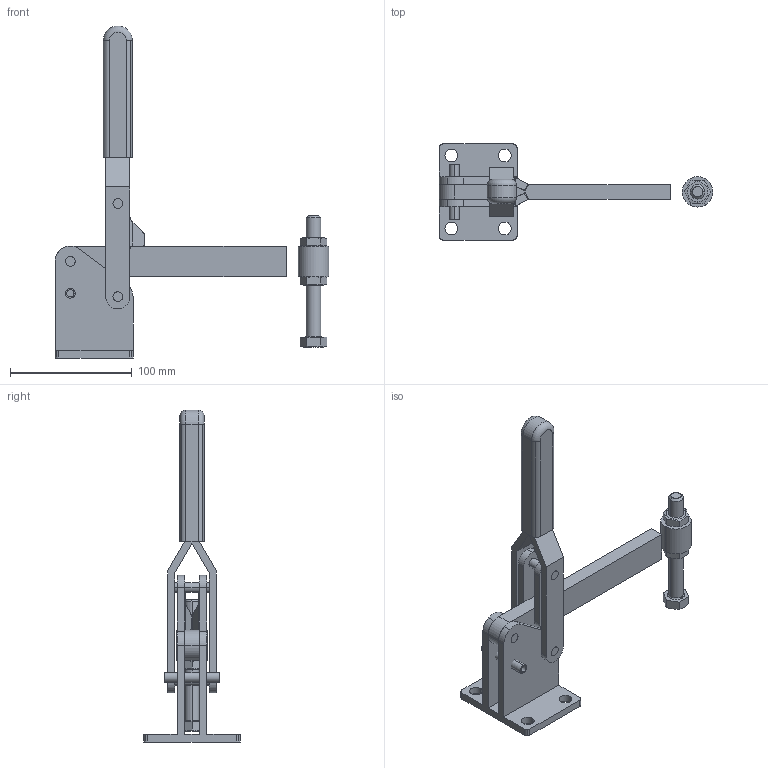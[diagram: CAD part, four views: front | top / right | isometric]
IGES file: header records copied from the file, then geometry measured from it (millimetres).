
Start section:  Level              Description ========  ================================        1  SANDFIELD
Global section: file name: D:/WORK/SANDFIELD/sandfield_3d/Vertical_Action/MG/Mg1/Mg1b.IGS; native system: AutoCAD-13_c4a_Mh (HwLock) (Microsoft Windows NT Version 4.0 (x86)); preprocessor: AutoCAD IGES Translator R13.1c2 (Jan 23 1997) from Autodesk, Inc.; author: ProCAD; organization: Sandfield Eng Co.; date: 990520.143451; units: millimetre
Bounding box: 225 x 79 x 273 mm (x, y, z)
Volume: 293392.3 mm3; surface area: 99830.5 mm2
Topology: 15 solids, 15 shells, 227 faces, 588 edges, 392 vertices
Faces by surface type: cylinder 76, bspline 71, plane 70, torus 8, cone 2
